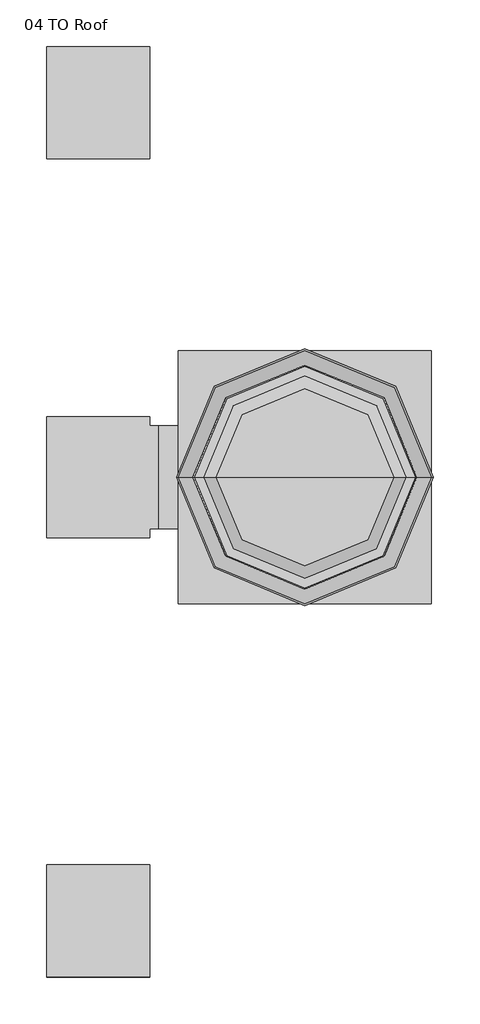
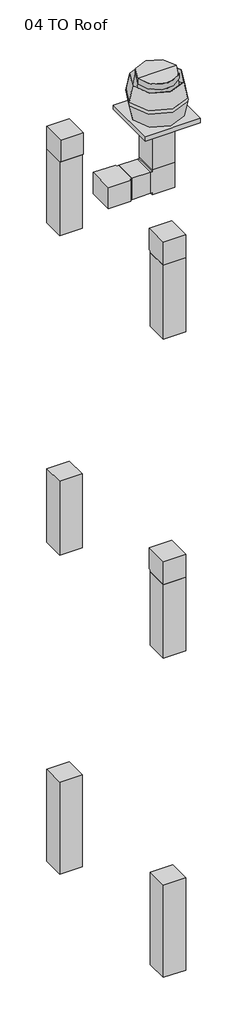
# One storey: 8 duct segments, 6 duct fittings, 1 proxy.
"""IFC4 building model written with IfcOpenShell, lengths in millimetres."""

import ifcopenshell
import ifcopenshell.guid

model = None  # the IFC model being written
_history = None  # IfcOwnerHistory: only IFC2X3 demands one
_inside = {}  # id of a spatial element -> (the spatial element, [elements in it])
_under = {}  # id of a project, library or spatial element -> (it, [spatial elements below it])
_declared = {}  # id of a project -> (the project, [libraries it declares])
_typed = {}  # id of a type object -> (the type object, [elements of that type])
_made_of = {}  # id of a material, layer set ... -> (it, [elements and type objects made of it])


def new_model(schema):
    """Start an empty IFC model of exactly this schema.

    Asked for "IFC4X3", IfcOpenShell would pick the latest addendum, in which some entities
    have other attributes; the version numbers below select the first issue.
    IFC2X3 requires an IfcOwnerHistory on every rooted entity: one is made here for all.
    """
    global model, _history
    if schema == "IFC4X3":
        model = ifcopenshell.file(schema_version=(4, 3, 0, 0))
    else:
        model = ifcopenshell.file(schema=schema)
    _inside.clear()
    _under.clear()
    _declared.clear()
    _typed.clear()
    _made_of.clear()
    _history = None
    if model.schema == "IFC2X3":
        org = make("IfcOrganization", Name="unknown")
        user = make(
            "IfcPersonAndOrganization",
            ThePerson=make("IfcPerson", FamilyName="unknown"),
            TheOrganization=org,
        )
        app = make(
            "IfcApplication",
            ApplicationDeveloper=org,
            Version="unknown",
            ApplicationFullName="unknown",
            ApplicationIdentifier="unknown",
        )
        _history = make(
            "IfcOwnerHistory",
            OwningUser=user,
            OwningApplication=app,
            ChangeAction="ADDED",
            CreationDate=0,
        )
    return model


def make(cls, **values):
    """One entity of the class cls with the attributes given. An attribute that is None is left unset."""
    return model.create_entity(
        cls, **{name: value for name, value in values.items() if value is not None}
    )


def rooted(cls, **values):
    """An entity with a GlobalId (a new one), such as an element, a storey or a relation."""
    return make(cls, GlobalId=ifcopenshell.guid.new(), OwnerHistory=_history, **values)


def si_unit(unit_type, name, prefix=None):
    """IfcSIUnit, for example si_unit("LENGTHUNIT", "METRE", prefix="MILLI")."""
    return make("IfcSIUnit", UnitType=unit_type, Prefix=prefix, Name=name)


def assignment(units):
    """IfcUnitAssignment: the units of a project."""
    return None if units is None else make("IfcUnitAssignment", Units=units)


def point(xyz):
    """IfcCartesianPoint."""
    return None if xyz is None else make("IfcCartesianPoint", Coordinates=xyz)


def direction(xyz):
    """IfcDirection."""
    return None if xyz is None else make("IfcDirection", DirectionRatios=xyz)


def frame(location, z_axis=None, x_axis=None):
    """IfcAxis2Placement3D, a coordinate frame: its origin and axes. An axis left out is left unset."""
    return make(
        "IfcAxis2Placement3D",
        Location=point(location),
        Axis=direction(z_axis),
        RefDirection=direction(x_axis),
    )


def origin():
    """The frame at (0, 0, 0) with its axes left unset."""
    return frame((0.0, 0.0, 0.0))


def origin_with_axes():
    """The frame at (0, 0, 0) with the z axis (0, 0, 1) and the x axis (1, 0, 0) written out."""
    return frame((0.0, 0.0, 0.0), z_axis=(0.0, 0.0, 1.0), x_axis=(1.0, 0.0, 0.0))


def place(relative_to, where):
    """IfcLocalPlacement: puts the frame where relative to a parent placement (None: the world)."""
    return make(
        "IfcLocalPlacement", PlacementRelTo=relative_to, RelativePlacement=where
    )


def context(
    kind, dimensions, precision=None, world=None, true_north=None, identifier=None
):
    """IfcGeometricRepresentationContext, for example the 3D "Model" context."""
    return make(
        "IfcGeometricRepresentationContext",
        ContextIdentifier=identifier,
        ContextType=kind,
        CoordinateSpaceDimension=dimensions,
        Precision=precision,
        WorldCoordinateSystem=world,
        TrueNorth=true_north,
    )


def project(units=None, contexts=None):
    """IfcProject with its units and contexts."""
    return rooted(
        "IfcProject",
        Name="project",
        RepresentationContexts=contexts,
        UnitsInContext=assignment(units),
    )


def spatial(cls, under=None, at=None, **own):
    """A site, building, storey or space (cls), placed at a placement, below another one or the project."""
    s = rooted(cls, ObjectPlacement=at, **own)
    if under is not None:
        _under.setdefault(under.id(), (under, []))[1].append(s)
    return s


def polyline(points):
    """IfcPolyline through the points."""
    return make("IfcPolyline", Points=[point(p) for p in points])


def circle_curve(where, radius):
    """IfcCircle in the frame where."""
    return make("IfcCircle", Position=where, Radius=radius)


def ellipse_curve(where, semi_axis1, semi_axis2):
    """IfcEllipse in the frame where."""
    return make(
        "IfcEllipse", Position=where, SemiAxis1=semi_axis1, SemiAxis2=semi_axis2
    )


def trimmed(basis, trim1, trim2, sense, master):
    """IfcTrimmedCurve: the piece of a basis curve between two trims."""
    return make(
        "IfcTrimmedCurve",
        BasisCurve=basis,
        Trim1=trim1,
        Trim2=trim2,
        SenseAgreement=sense,
        MasterRepresentation=master,
    )


def outline(outer, holes=None, kind="AREA"):
    """IfcArbitraryClosedProfileDef: a profile drawn as a closed curve; with holes, ...WithVoids."""
    if holes is None:
        return make("IfcArbitraryClosedProfileDef", ProfileType=kind, OuterCurve=outer)
    return make(
        "IfcArbitraryProfileDefWithVoids",
        ProfileType=kind,
        OuterCurve=outer,
        InnerCurves=holes,
    )


def extrude(swept, where, along, depth):
    """IfcExtrudedAreaSolid: the profile swept, set in the frame where, extruded along a direction by depth."""
    return make(
        "IfcExtrudedAreaSolid",
        SweptArea=swept,
        Position=where,
        ExtrudedDirection=direction(along),
        Depth=depth,
    )


def faces_of(points, faces, orient=None, outer=None):
    """IfcFace entities. A face is a list of loops; a loop is a list of indices into points, from 0.

    orient and outer hold one flag for each loop. By default every Orientation is true, the
    first loop of a face is its IfcFaceOuterBound and the others are IfcFaceBound.
    """
    made = []
    for i, loops in enumerate(faces):
        bounds = []
        for j, loop in enumerate(loops):
            is_outer = j == 0 if outer is None else outer[i][j]
            bounds.append(
                make(
                    "IfcFaceOuterBound" if is_outer else "IfcFaceBound",
                    Bound=make("IfcPolyLoop", Polygon=[points[k] for k in loop]),
                    Orientation=True if orient is None else orient[i][j],
                )
            )
        made.append(make("IfcFace", Bounds=bounds))
    return made


def faceted_brep(points, faces, orient=None, outer=None, voids=None):
    """IfcFacetedBrep: a solid bounded by flat faces; with voids (closed shells), ...WithVoids."""
    shared = [point(p) for p in points]
    hull = make("IfcClosedShell", CfsFaces=faces_of(shared, faces, orient, outer))
    if voids is None:
        return make("IfcFacetedBrep", Outer=hull)
    return make(
        "IfcFacetedBrepWithVoids",
        Outer=hull,
        Voids=[
            make(cls, CfsFaces=faces_of(shared, fs, o, b)) for cls, fs, o, b in voids
        ],
    )


def shape(context_of_items, identifier, shape_type, items):
    """IfcShapeRepresentation: the items that make up one representation, for example the "Body"."""
    return make(
        "IfcShapeRepresentation",
        ContextOfItems=context_of_items,
        RepresentationIdentifier=identifier,
        RepresentationType=shape_type,
        Items=items,
    )


def source(mapping_origin, context_of_items, identifier, shape_type, items):
    """IfcRepresentationMap: a shape defined once, which mapped items show again and again."""
    return make(
        "IfcRepresentationMap",
        MappingOrigin=mapping_origin,
        MappedRepresentation=shape(context_of_items, identifier, shape_type, items),
    )


def transform(
    local_origin,
    x_axis=None,
    y_axis=None,
    z_axis=None,
    scale=None,
    scale2=None,
    scale3=None,
    uniform=True,
):
    """IfcCartesianTransformationOperator3D, or its non-uniform kind. x_axis, y_axis, z_axis: its Axis1, 2, 3."""
    if uniform:
        return make(
            "IfcCartesianTransformationOperator3D",
            Axis1=direction(x_axis),
            Axis2=direction(y_axis),
            LocalOrigin=point(local_origin),
            Scale=scale,
            Axis3=direction(z_axis),
        )
    return make(
        "IfcCartesianTransformationOperator3DnonUniform",
        Axis1=direction(x_axis),
        Axis2=direction(y_axis),
        LocalOrigin=point(local_origin),
        Scale=scale,
        Axis3=direction(z_axis),
        Scale2=scale2,
        Scale3=scale3,
    )


def mapped(mapping_source, mapping_target):
    """IfcMappedItem: shows the shape of a source again, moved by a transform."""
    return make(
        "IfcMappedItem", MappingSource=mapping_source, MappingTarget=mapping_target
    )


def made_of(thing, what):
    """Note that an element or type object is made of a material, layer set ...; save() writes the relation."""
    if what is not None:
        _made_of.setdefault(what.id(), (what, []))[1].append(thing)
    return thing


def element(
    cls,
    number,
    at=None,
    inside=None,
    cuts=None,
    type_object=None,
    material=None,
    context=None,
    identifier="Body",
    shape_type=None,
    held_by="IfcProductDefinitionShape",
    body=None,
    shapes=None,
    **own,
):
    """One element of the class cls, such as IfcWall. Its Tag is "e" and its number.

    at: its placement. inside: the storey or other place that contains it. cuts: it is an
    opening in that element (IfcRelVoidsElement). A single representation is given by context,
    identifier, shape_type and body (its items); several are given by shapes. held_by: the class
    of the entity that holds the representations. save() writes the other relations.
    """
    e = rooted(cls, Tag="e%d" % number, ObjectPlacement=at, **own)
    if body is not None:
        shapes = [shape(context, identifier, shape_type, body)]
    if shapes is not None:
        e.Representation = make(held_by, Representations=shapes)
    if inside is not None:
        _inside.setdefault(inside.id(), (inside, []))[1].append(e)
    if cuts is not None:
        rooted(
            "IfcRelVoidsElement", RelatingBuildingElement=cuts, RelatedOpeningElement=e
        )
    if type_object is not None:
        _typed.setdefault(type_object.id(), (type_object, []))[1].append(e)
    return made_of(e, material)


def aggregate(whole, parts):
    """IfcRelAggregates: a whole, such as a stair, and the parts it consists of."""
    return rooted("IfcRelAggregates", RelatingObject=whole, RelatedObjects=parts)


def save(model, path):
    """Write the relations noted so far, then the file.

    IfcRelAggregates (storeys below a building ...), IfcRelContainedInSpatialStructure (elements
    in a storey), IfcRelDefinesByType, IfcRelAssociatesMaterial and IfcRelDeclares: one each for
    every whole, place, type object, material and project.
    """
    for whole, parts in _under.values():
        aggregate(whole, parts)
    for where, things in _inside.values():
        rooted(
            "IfcRelContainedInSpatialStructure",
            RelatedElements=things,
            RelatingStructure=where,
        )
    for kind, things in _typed.values():
        rooted("IfcRelDefinesByType", RelatedObjects=things, RelatingType=kind)
    for what, things in _made_of.values():
        rooted("IfcRelAssociatesMaterial", RelatedObjects=things, RelatingMaterial=what)
    for by, libraries in _declared.values():
        rooted("IfcRelDeclares", RelatingContext=by, RelatedDefinitions=libraries)
    model.write(path)


def plane_surface(at):
    """IfcPlane: the flat surface through the origin of the frame at, square to its z axis."""
    return make("IfcPlane", Position=at)


def cylinder_surface(at, radius):
    """IfcCylindricalSurface: all points at the distance radius from the z axis of the frame at."""
    return make("IfcCylindricalSurface", Position=at, Radius=radius)


def revolved_surface(curve, axis_point, axis_direction):
    """IfcSurfaceOfRevolution: the curve turned about the line through axis_point along axis_direction."""
    return make(
        "IfcSurfaceOfRevolution",
        SweptCurve=make("IfcArbitraryOpenProfileDef", ProfileType="CURVE", Curve=curve),
        AxisPosition=make("IfcAxis1Placement", Location=point(axis_point), Axis=direction(axis_direction)),
    )


def advanced_brep(points, edges, surfaces, faces):
    """IfcAdvancedBrep: a solid bounded by faces that lie on surfaces and meet in shared edges.

    An edge is (start, end): straight between two places in points (the first is 0);
    or (start, end, curve); or (start, end, curve, False) where it runs against its curve.
    A face is (place in surfaces, loops), or (place, loops, False) where it looks against
    its surface's normal. A loop lists edges by number (the first is 1), with a minus sign
    where the edge is run from its end to its start. The first loop is the outer one.
    """
    corners = [point(p) for p in points]
    vertices = [make("IfcVertexPoint", VertexGeometry=c) for c in corners]
    made = []
    for start, end, *more in edges:
        made.append(
            make(
                "IfcEdgeCurve",
                EdgeStart=vertices[start],
                EdgeEnd=vertices[end],
                EdgeGeometry=more[0] if more else make("IfcPolyline", Points=[corners[start], corners[end]]),
                SameSense=more[1] if len(more) > 1 else True,
            )
        )
    hull = []
    for where, loops, *sense in faces:
        bounds = []
        for j, loop in enumerate(loops):
            ring = [make("IfcOrientedEdge", EdgeElement=made[abs(k) - 1], Orientation=k > 0) for k in loop]
            bounds.append(
                make(
                    "IfcFaceOuterBound" if j == 0 else "IfcFaceBound",
                    Bound=make("IfcEdgeLoop", EdgeList=ring),
                    Orientation=True,
                )
            )
        hull.append(make("IfcAdvancedFace", Bounds=bounds, FaceSurface=surfaces[where], SameSense=sense[0] if sense else True))
    return make("IfcAdvancedBrep", Outer=make("IfcClosedShell", CfsFaces=hull))


def mechanical_equipment_a255a3f5(model_context):
    return source(origin(), model_context, "Body", "AdvancedBrep", [
        advanced_brep(
        [(373.0625, 0.0, 333.375), (-373.0625, 0.0, 333.375), (-330.2, 0.0, 552.45), (330.2, 0.0, 552.45), (373.0625, 0.0, 282.575), (-373.0625, 0.0, 282.575), (330.2, 0.0, 63.5), (-330.2, 0.0, 63.5), (228.6, 0.0, 63.5), (0.0, 0.0, 63.5), (-228.6, 0.0, 63.5), (-327.025, 0.0, 552.45), (327.025, 0.0, 552.45), (369.8875, 0.0, 333.375), (-369.8875, 0.0, 333.375), (-298.45, 0.0, 333.375), (298.45, 0.0, 333.375), (373.0625, 373.0625, 63.5), (-373.0625, 373.0625, 63.5), (-373.0625, -373.0625, 63.5), (373.0625, -373.0625, 63.5), (373.0625, 373.0625, 0.0), (373.0625, -373.0625, 0.0), (-373.0625, -373.0625, 0.0), (-373.0625, 373.0625, 0.0), (-228.6, 0.0, 0.0), (228.6, 0.0, 0.0), (-261.14375, 0.0, 635.0), (261.14375, 0.0, 635.0), (261.14375, 0.0, 558.8), (-261.14375, 0.0, 558.8), (0.0, 0.0, 635.0)],
        [
            (0, 1, circle_curve(frame((0.0, 0.0, 333.375), z_axis=(0.0, 0.0, 1.0), x_axis=(-1.0, 0.0, 0.0)), 373.0625)),
            (1, 2),
            (2, 3, circle_curve(frame((0.0, 0.0, 552.45), z_axis=(0.0, 0.0, -1.0), x_axis=(-1.0, 0.0, 0.0)), 330.2)),
            (3, 0),
            (1, 0, circle_curve(frame((0.0, 0.0, 333.375), z_axis=(0.0, 0.0, 1.0), x_axis=(-1.0, 0.0, 0.0)), 373.0625)),
            (3, 2, circle_curve(frame((0.0, 0.0, 552.45), z_axis=(0.0, 0.0, -1.0), x_axis=(-1.0, 0.0, 0.0)), 330.2)),
            (0, 4, circle_curve(frame((318.824906, 0.0, 307.975), z_axis=(0.0, 1.0, 0.0), x_axis=(-1.0, 0.0, 0.0)), 59.8905385)),
            (4, 5, circle_curve(frame((0.0, 0.0, 282.575), z_axis=(0.0, 0.0, 1.0), x_axis=(-1.0, 0.0, 0.0)), 373.0625)),
            (5, 1, circle_curve(frame((-318.824906, 0.0, 307.975), z_axis=(0.0, 1.0, 0.0), x_axis=(1.0, 0.0, 0.0)), 59.8905385)),
            (5, 4, circle_curve(frame((0.0, 0.0, 282.575), z_axis=(0.0, 0.0, 1.0), x_axis=(-1.0, 0.0, 0.0)), 373.0625)),
            (4, 6),
            (6, 7, circle_curve(frame((0.0, 0.0, 63.5), z_axis=(0.0, 0.0, 1.0), x_axis=(-1.0, 0.0, 0.0)), 330.2)),
            (7, 5),
            (7, 6, circle_curve(frame((0.0, 0.0, 63.5), z_axis=(0.0, 0.0, 1.0), x_axis=(-1.0, 0.0, 0.0)), 330.2)),
            (8, 9),
            (9, 10),
            (10, 8, circle_curve(frame((0.0, 0.0, 63.5), z_axis=(0.0, 0.0, -1.0), x_axis=(1.0, 0.0, 0.0)), 228.6)),
            (8, 10, circle_curve(frame((0.0, 0.0, 63.5), z_axis=(0.0, 0.0, -1.0), x_axis=(1.0, 0.0, 0.0)), 228.6)),
            (2, 11),
            (11, 12, circle_curve(frame((0.0, 0.0, 552.45), z_axis=(0.0, 0.0, -1.0), x_axis=(-1.0, 0.0, 0.0)), 327.025)),
            (12, 3),
            (12, 11, circle_curve(frame((0.0, 0.0, 552.45), z_axis=(0.0, 0.0, -1.0), x_axis=(-1.0, 0.0, 0.0)), 327.025)),
            (13, 12),
            (11, 14),
            (14, 13, circle_curve(frame((0.0, 0.0, 333.375), z_axis=(0.0, 0.0, -1.0), x_axis=(-1.0, 0.0, 0.0)), 369.8875)),
            (13, 14, circle_curve(frame((0.0, 0.0, 333.375), z_axis=(0.0, 0.0, -1.0), x_axis=(-1.0, 0.0, 0.0)), 369.8875)),
            (14, 15),
            (15, 16, circle_curve(frame((0.0, 0.0, 333.375), z_axis=(0.0, 0.0, -1.0), x_axis=(1.0, 0.0, 0.0)), 298.45)),
            (16, 13),
            (16, 15, circle_curve(frame((0.0, 0.0, 333.375), z_axis=(0.0, 0.0, -1.0), x_axis=(1.0, 0.0, 0.0)), 298.45)),
            (17, 18),
            (18, 19),
            (19, 20),
            (20, 17),
            (21, 22),
            (22, 23),
            (23, 24),
            (24, 21),
            (25, 26, circle_curve(origin_with_axes(), 228.6)),
            (26, 25, circle_curve(origin_with_axes(), 228.6)),
            (17, 21),
            (24, 18),
            (23, 19),
            (22, 20),
            (25, 10),
            (8, 26),
            (27, 28, circle_curve(frame((0.0, 0.0, 635.0), z_axis=(0.0, 0.0, -1.0), x_axis=(1.0, 0.0, 0.0)), 261.14375)),
            (28, 29),
            (29, 30, circle_curve(frame((0.0, 0.0, 558.8), z_axis=(0.0, 0.0, 1.0), x_axis=(1.0, 0.0, 0.0)), 261.14375)),
            (30, 27),
            (28, 27, circle_curve(frame((0.0, 0.0, 635.0), z_axis=(0.0, 0.0, -1.0), x_axis=(1.0, 0.0, 0.0)), 261.14375)),
            (30, 29, circle_curve(frame((0.0, 0.0, 558.8), z_axis=(0.0, 0.0, 1.0), x_axis=(1.0, 0.0, 0.0)), 261.14375)),
            (27, 31),
            (31, 28),
            (29, 16),
            (15, 30),
        ],
        [
            revolved_surface(polyline([(-330.2, 0.0, 552.45), (-373.0625, 0.0, 333.375)]), (0.0, 0.0, 552.45), (0.0, 0.0, -1.0)),
            revolved_surface(trimmed(ellipse_curve(frame((-318.824906, 0.0, 307.975), z_axis=(0.0, -1.0, 0.0), x_axis=(1.0, 0.0, 0.0)), 59.8905385, 59.8905385), [point((-373.0625, 0.0, 333.375))], [point((-373.0625, 0.0, 282.575))], True, "CARTESIAN"), (0.0, 0.0, 552.45), (0.0, 0.0, -1.0)),
            revolved_surface(polyline([(-373.0625, 0.0, 282.575), (-330.2, 0.0, 63.5)]), (0.0, 0.0, 552.45), (0.0, 0.0, -1.0)),
            plane_surface(frame((0.0, 0.0, 63.5), z_axis=(0.0, 0.0, -1.0), x_axis=(-1.0, 0.0, 0.0))),
            plane_surface(frame((0.0, 0.0, 552.45), z_axis=(0.0, 0.0, 1.0), x_axis=(-1.0, 0.0, 0.0))),
            revolved_surface(polyline([(-369.8875, 0.0, 333.375), (-327.025, 0.0, 552.45)]), (0.0, 0.0, 552.45), (0.0, 0.0, -1.0)),
            plane_surface(frame((0.0, 0.0, 333.375), z_axis=(0.0, 0.0, 1.0), x_axis=(-1.0, 0.0, 0.0))),
            plane_surface(frame((-373.0625, 373.0625, 63.5), z_axis=(0.0, 0.0, 1.0), x_axis=(-1.0, 0.0, 0.0))),
            plane_surface(frame((-373.0625, 373.0625, 0.0), z_axis=(0.0, 0.0, -1.0), x_axis=(1.0, 0.0, 0.0))),
            plane_surface(frame((373.0625, 373.0625, 63.5), z_axis=(0.0, 1.0, 0.0), x_axis=(0.0, 0.0, -1.0))),
            plane_surface(frame((-373.0625, 373.0625, 63.5), z_axis=(-1.0, 0.0, 0.0), x_axis=(0.0, 0.0, -1.0))),
            plane_surface(frame((-373.0625, -373.0625, 63.5), z_axis=(0.0, -1.0, 0.0), x_axis=(0.0, 0.0, -1.0))),
            plane_surface(frame((373.0625, -373.0625, 63.5), z_axis=(1.0, 0.0, 0.0), x_axis=(0.0, 0.0, -1.0))),
            revolved_surface(polyline([(228.6, 0.0, 63.5), (228.6, 0.0, 0.0)]), (0.0, 0.0, 0.0), (0.0, 0.0, 1.0)),
            cylinder_surface(frame((0.0, 0.0, 635.0), z_axis=(0.0, 0.0, 1.0), x_axis=(1.0, 0.0, 0.0)), 261.14375),
            plane_surface(frame((0.0, 0.0, 635.0), z_axis=(0.0, 0.0, 1.0), x_axis=(1.0, 0.0, 0.0))),
            revolved_surface(polyline([(298.45, 0.0, 333.375), (261.14375, 0.0, 558.8)]), (0.0, 0.0, 635.0), (0.0, 0.0, 1.0)),
        ],
        [
            (0, [[1, 2, 3, 4]]),
            (0, [[-2, 5, -4, 6]]),
            (1, [[-1, 7, 8, 9]]),
            (1, [[-5, -9, 10, -7]]),
            (2, [[-8, 11, 12, 13]]),
            (2, [[-10, -13, 14, -11]]),
            (3, [[15, 16, 17]]),
            (3, [[-15, 18, -16]]),
            (4, [[-3, 19, 20, 21]]),
            (4, [[-6, -21, 22, -19]]),
            (5, [[23, -20, 24, 25]]),
            (5, [[-23, 26, -24, -22]]),
            (6, [[-25, 27, 28, 29]]),
            (6, [[-26, -29, 30, -27]]),
            (7, [[31, 32, 33, 34], [-12, -14]]),
            (8, [[35, 36, 37, 38], [39, 40]]),
            (9, [[-31, 41, -38, 42]]),
            (10, [[-32, -42, -37, 43]]),
            (11, [[-33, -43, -36, 44]]),
            (12, [[-34, -44, -35, -41]]),
            (13, [[45, -18, 46, -39]]),
            (13, [[-45, -40, -46, -17]]),
            (14, [[47, 48, 49, 50]]),
            (14, [[-48, 51, -50, 52]]),
            (15, [[-47, 53, 54]]),
            (15, [[-51, -54, -53]]),
            (16, [[-49, 55, -28, 56]]),
            (16, [[-52, -56, -30, -55]]),
        ],
    ),
    ])


def rectangular_elbow_mitered_standard_4ff1c4e8(model_context):
    return source(origin(), model_context, "Body", "SweptSolid", [
        extrude(outline(polyline([(-177.8, -152.4), (-177.8, 152.4), (-152.4, 152.4), (-152.4, 177.8), (152.4, 177.8), (152.4, -152.4), (-177.8, -152.4)])), frame((0.0, 0.0, -152.4), z_axis=(0.0, 0.0, 1.0), x_axis=(1.0, 0.0, 0.0)), (0.0, 0.0, 1.0), 304.8),
    ])


def rectangular_tee_standard_578867ac(model_context):
    return source(origin(), model_context, "Body", "SweptSolid", [
        extrude(outline(polyline([(-177.8, -152.4), (-177.8, 152.4), (177.8, 152.4), (177.8, -152.4), (152.4, -152.4), (152.4, -177.8), (-152.4, -177.8), (-152.4, -152.4), (-177.8, -152.4)])), frame((0.0, 0.0, -152.4), z_axis=(0.0, 0.0, 1.0), x_axis=(1.0, 0.0, 0.0)), (0.0, 0.0, 1.0), 304.8),
    ])


def rectangular_transition_angle_45_degree_b9bd8765(model_context):
    return source(origin(), model_context, "Body", "Brep", [
        faceted_brep([(183.9630735, -152.4, 152.4), (183.9630735, -152.4, -152.4), (183.9630735, 152.4, -152.4), (183.9630735, 152.4, 152.4), (0.0, -228.6, 228.6), (0.0, 228.6, 228.6), (0.0, 228.6, -228.6), (0.0, -228.6, -228.6)], [[[0, 1, 2, 3]], [[4, 5, 6, 7]], [[4, 7, 1, 0]], [[7, 6, 2, 1]], [[6, 5, 3, 2]], [[5, 4, 0, 3]]]),
    ])


model = new_model("IFC4")

# Units and contexts
model_context = context("Model", 3, world=origin())
ifc_project = project(units=[si_unit("LENGTHUNIT", "METRE", prefix="MILLI")], contexts=[model_context])

# Site, building, storey
site = spatial("IfcSite", under=ifc_project)
building = spatial("IfcBuilding", under=site)
storey = spatial("IfcBuildingStorey", under=building, Name="04 TO Roof", Elevation=13716.0)

# Proxy
placement = place(None, origin())
mechanical_equipment_shape = mechanical_equipment_a255a3f5(model_context)
element("IfcBuildingElementProxy", 1, Name="Centrifugal Fan -  Rooftop  - Upblast : D3040200_CentrifugalFan_Rooftop_Upblast_2099-4036 CFM", ObjectType="Centrifugal Fan -  Rooftop  - Upblast : D3040200_CentrifugalFan_Rooftop_Upblast_2099-4036 CFM", at=placement, inside=storey, context=model_context, shape_type="MappedRepresentation", body=[
    mapped(mechanical_equipment_shape, transform((-12314.0292617, -4482.5078325, 13716.0), x_axis=(1.0, 0.0, 0.0), y_axis=(0.0, 1.0, 0.0), z_axis=(0.0, 0.0, 1.0))),
])

# Duct fittings
rectangular_elbow_mitered_standard_shape = rectangular_elbow_mitered_standard_4ff1c4e8(model_context)
element("IfcDuctFitting", 2, ObjectType="Rectangular Elbow - Mitered : Standard", at=placement, inside=storey, context=model_context, shape_type="MappedRepresentation", body=[
    mapped(rectangular_elbow_mitered_standard_shape, transform((-12923.6292617, -5803.3078325, 8343.9), x_axis=(0.0, 0.0, 1.0), y_axis=(0.0, 1.0, 0.0), z_axis=(-1.0, 0.0, 0.0))),
])
element("IfcDuctFitting", 3, ObjectType="Rectangular Elbow - Mitered : Standard", at=placement, inside=storey, context=model_context, shape_type="MappedRepresentation", body=[
    mapped(rectangular_elbow_mitered_standard_shape, transform((-12923.6292617, -3364.9078325, 12915.9), x_axis=(0.0, 0.0, 1.0), y_axis=(0.0, -1.0, 0.0), z_axis=(1.0, 0.0, 0.0))),
])
element("IfcDuctFitting", 4, ObjectType="Rectangular Elbow - Mitered : Standard", at=placement, inside=storey, context=model_context, shape_type="MappedRepresentation", body=[
    mapped(rectangular_elbow_mitered_standard_shape, transform((-12923.6292617, -5803.3078325, 12915.9), x_axis=(0.0, 0.0, 1.0), y_axis=(0.0, 1.0, 0.0), z_axis=(-1.0, 0.0, 0.0))),
])
rectangular_tee_standard_shape = rectangular_tee_standard_578867ac(model_context)
element("IfcDuctFitting", 5, ObjectType="Rectangular Tee : Standard", at=placement, inside=storey, context=model_context, shape_type="MappedRepresentation", body=[
    mapped(rectangular_tee_standard_shape, transform((-12314.0292617, -4482.5078325, 12915.9), x_axis=(0.0, 0.0, 1.0), y_axis=(1.0, 0.0, 0.0), z_axis=(0.0, 1.0, 0.0))),
])
element("IfcDuctFitting", 6, ObjectType="Rectangular Tee : Standard", at=placement, inside=storey, context=model_context, shape_type="MappedRepresentation", body=[
    mapped(rectangular_tee_standard_shape, transform((-12923.6292617, -4482.5078325, 12915.9), x_axis=(0.0, 1.0, 0.0), y_axis=(-1.0, 0.0, 0.0), z_axis=(0.0, 0.0, 1.0))),
])
rectangular_transition_angle_45_degree_shape = rectangular_transition_angle_45_degree_b9bd8765(model_context)
element("IfcDuctFitting", 7, ObjectType="Rectangular Transition - Angle : 45 Degree", at=placement, inside=storey, context=model_context, shape_type="MappedRepresentation", body=[
    mapped(rectangular_transition_angle_45_degree_shape, transform((-12314.0292617, -4482.5078325, 13779.5), x_axis=(0.0, 0.0, -1.0), y_axis=(-1.0, 0.0, 0.0), z_axis=(0.0, 1.0, 0.0))),
])

# Duct segments
element("IfcDuctSegment", 8, ObjectType="Mitered Elbows / Tees", at=placement, inside=storey, context=model_context, shape_type="SweptSolid", body=[
    extrude(outline(polyline([(-12466.4292617, -4634.9078325), (-12466.4292617, -4330.1078325), (-12161.6292617, -4330.1078325), (-12161.6292617, -4634.9078325), (-12466.4292617, -4634.9078325)])), frame((0.0, 0.0, 13093.7), z_axis=(0.0, 0.0, 1.0), x_axis=(1.0, 0.0, 0.0)), (0.0, 0.0, 1.0), 501.8369265),
])
element("IfcDuctSegment", 9, ObjectType="Mitered Elbows / Tees", at=placement, inside=storey, context=model_context, shape_type="SweptSolid", body=[
    extrude(outline(polyline([(-12771.2292617, -3517.3078325), (-13076.0292617, -3517.3078325), (-13076.0292617, -3212.5078325), (-12771.2292617, -3212.5078325), (-12771.2292617, -3517.3078325)])), frame((0.0, 0.0, 11684.2523776), z_axis=(0.0, 0.0, 1.0), x_axis=(1.0, 0.0, 0.0)), (0.0, 0.0, 1.0), 1053.8476224),
])
element("IfcDuctSegment", 10, ObjectType="Mitered Elbows / Tees", at=placement, inside=storey, context=model_context, shape_type="SweptSolid", body=[
    extrude(outline(polyline([(-12771.2292617, -5955.7078325), (-13076.0292617, -5955.7078325), (-13076.0292617, -5650.9078325), (-12771.2292617, -5650.9078325), (-12771.2292617, -5955.7078325)])), frame((0.0, 0.0, 11684.2523776), z_axis=(0.0, 0.0, 1.0), x_axis=(1.0, 0.0, 0.0)), (0.0, 0.0, 1.0), 1053.8476224),
])
element("IfcDuctSegment", 11, ObjectType="Mitered Elbows / Tees", at=placement, inside=storey, context=model_context, shape_type="SweptSolid", body=[
    extrude(outline(polyline([(-12771.2292617, -5955.7078325), (-13076.0292617, -5955.7078325), (-13076.0292617, -5650.9078325), (-12771.2292617, -5650.9078325), (-12771.2292617, -5955.7078325)])), frame((0.0, 0.0, 7112.2523776), z_axis=(0.0, 0.0, 1.0), x_axis=(1.0, 0.0, 0.0)), (0.0, 0.0, 1.0), 1053.8476224),
])
element("IfcDuctSegment", 12, ObjectType="Mitered Elbows / Tees", at=placement, inside=storey, context=model_context, shape_type="SweptSolid", body=[
    extrude(outline(polyline([(-12771.2292617, -3517.3078325), (-13076.0292617, -3517.3078325), (-13076.0292617, -3212.5078325), (-12771.2292617, -3212.5078325), (-12771.2292617, -3517.3078325)])), frame((0.0, 0.0, 7112.2523776), z_axis=(0.0, 0.0, 1.0), x_axis=(1.0, 0.0, 0.0)), (0.0, 0.0, 1.0), 1053.8476224),
])
element("IfcDuctSegment", 13, ObjectType="Mitered Elbows / Tees", at=placement, inside=storey, context=model_context, shape_type="SweptSolid", body=[
    extrude(outline(polyline([(-13076.0292617, -5955.7078325), (-13076.0292617, -5650.9078325), (-12771.2292617, -5650.9078325), (-12771.2292617, -5955.7078325), (-13076.0292617, -5955.7078325)])), frame((0.0, 0.0, 2540.2523776), z_axis=(0.0, 0.0, 1.0), x_axis=(1.0, 0.0, 0.0)), (0.0, 0.0, 1.0), 1320.5476224),
])
element("IfcDuctSegment", 14, ObjectType="Mitered Elbows / Tees", at=placement, inside=storey, context=model_context, shape_type="SweptSolid", body=[
    extrude(outline(polyline([(-13076.0292617, -3517.3078325), (-13076.0292617, -3212.5078325), (-12771.2292617, -3212.5078325), (-12771.2292617, -3517.3078325), (-13076.0292617, -3517.3078325)])), frame((0.0, 0.0, 2540.2523776), z_axis=(0.0, 0.0, 1.0), x_axis=(1.0, 0.0, 0.0)), (0.0, 0.0, 1.0), 1320.5476224),
])
element("IfcDuctSegment", 15, ObjectType="Mitered Elbows / Tees", at=placement, inside=storey, context=model_context, shape_type="SweptSolid", body=[
    extrude(outline(polyline([(-12745.8292617, -4634.9078325), (-12745.8292617, -4330.1078325), (-12491.8292617, -4330.1078325), (-12491.8292617, -4634.9078325), (-12745.8292617, -4634.9078325)])), frame((0.0, 0.0, 12763.5), z_axis=(0.0, 0.0, 1.0), x_axis=(1.0, 0.0, 0.0)), (0.0, 0.0, 1.0), 304.8),
])

save(model, "model.ifc")
